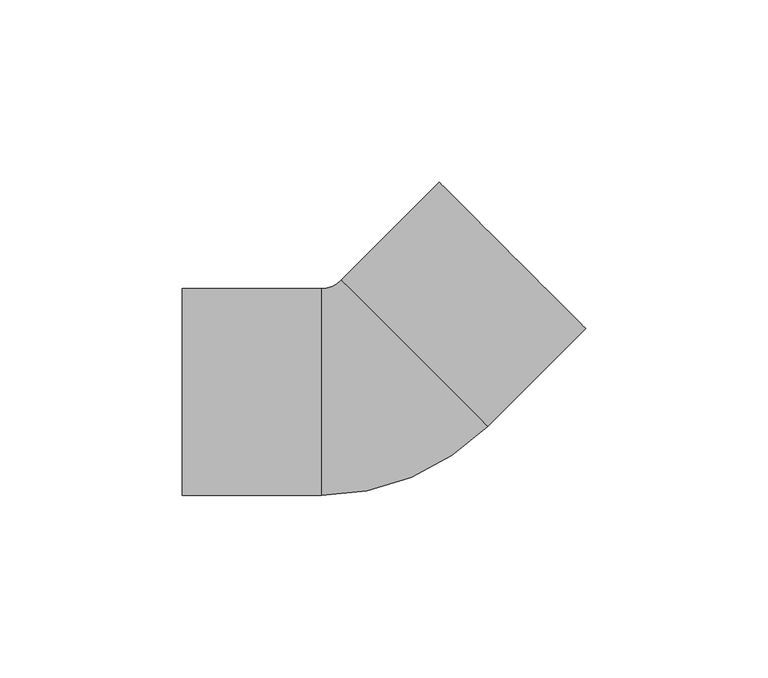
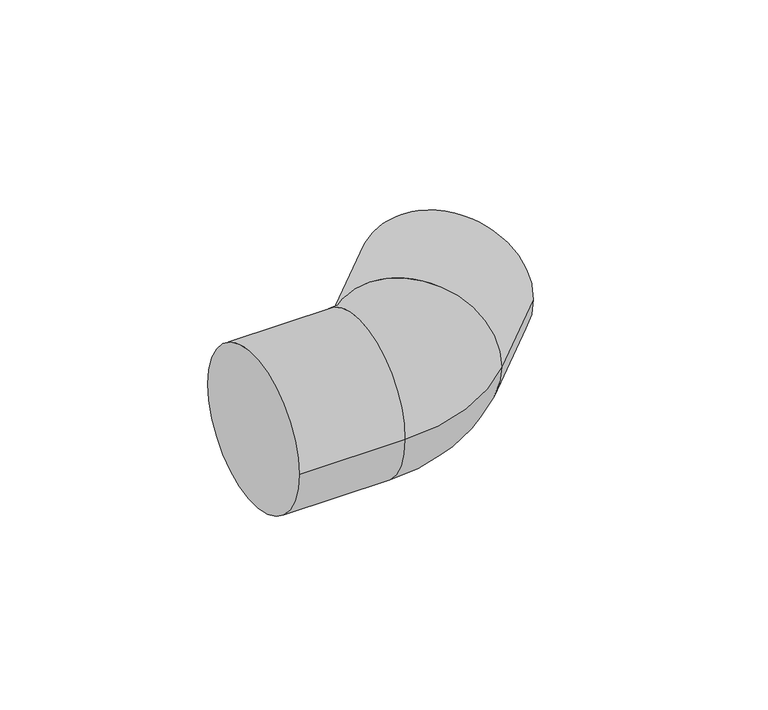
"""IFC4 building model written with IfcOpenShell, lengths in millimetres: pipe fitting geometry, 01051067 : Codos 45º."""

from ifc_helpers import new_model, si_unit, point, frame, origin, place, context, project, spatial, circle_curve, ellipse_curve, trimmed, source, transform, mapped, element, save
from ifc_brep_helpers import plane_surface, cylinder_surface, revolved_surface, advanced_brep


def pipe_fitting_55a609fb(model_context):
    return source(origin(), model_context, "Body", "AdvancedBrep", [
        advanced_brep(
        [(-53.0, -28.35, 0.0), (-53.0, 28.35, 0.0), (-15.0, -28.35, 0.0), (-15.0, 28.35, 0.0), (-9.4398755, 30.653079, 0.0), (30.653079, -9.4398755, 0.0), (57.5231366, 17.4301822, 0.0), (17.4301822, 57.5231366, 0.0)],
        [
            (0, 1, circle_curve(frame((-53.0, 0.0, 0.0), z_axis=(-1.0, 0.0, 0.0), x_axis=(0.0, 1.0, 0.0)), 28.35)),
            (1, 0, circle_curve(frame((-53.0, 0.0, 0.0), z_axis=(-1.0, 0.0, 0.0), x_axis=(0.0, 1.0, 0.0)), 28.35)),
            (0, 2),
            (2, 3, circle_curve(frame((-15.0, 0.0, 0.0), z_axis=(-1.0, 0.0, 0.0), x_axis=(0.0, 1.0, 0.0)), 28.35)),
            (3, 1),
            (3, 2, circle_curve(frame((-15.0, 0.0, 0.0), z_axis=(-1.0, 0.0, 0.0), x_axis=(0.0, 1.0, 0.0)), 28.35)),
            (4, 3, circle_curve(frame((-15.0, 36.2132034, 0.0), z_axis=(0.0, 0.0, -1.0), x_axis=(0.0, -1.0, 0.0)), 7.8632034)),
            (2, 5, circle_curve(frame((-15.0, 36.2132034, 0.0), z_axis=(0.0, 0.0, 1.0), x_axis=(0.0, -1.0, 0.0)), 64.5632034)),
            (5, 4, circle_curve(frame((10.6066017, 10.6066017, 0.0), z_axis=(-0.7071067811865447, -0.7071067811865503, 0.0), x_axis=(-0.7071067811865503, 0.7071067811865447, 0.0)), 28.35)),
            (4, 5, circle_curve(frame((10.6066017, 10.6066017, 0.0), z_axis=(-0.7071067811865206, -0.7071067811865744, 0.0), x_axis=(-0.7071067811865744, 0.7071067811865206, 0.0)), 28.35)),
            (6, 7, circle_curve(frame((37.4766594, 37.4766594, 0.0), z_axis=(0.7071067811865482, 0.7071067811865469, 0.0), x_axis=(-0.7071067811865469, 0.7071067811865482, 0.0)), 28.35)),
            (7, 6, circle_curve(frame((37.4766594, 37.4766594, 0.0), z_axis=(0.7071067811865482, 0.7071067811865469, 0.0), x_axis=(-0.7071067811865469, 0.7071067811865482, 0.0)), 28.35)),
            (5, 6),
            (7, 4),
        ],
        [
            plane_surface(frame((-53.0, 0.0, 0.0), z_axis=(-1.0, 0.0, 0.0), x_axis=(0.0, 0.0, 1.0))),
            cylinder_surface(frame((-53.0, 0.0, 0.0), z_axis=(-1.0, 0.0, 0.0), x_axis=(0.0, 1.0, 0.0)), 28.35),
            revolved_surface(trimmed(ellipse_curve(frame((-15.0, 0.0, 0.0), z_axis=(-1.0, 0.0, 0.0), x_axis=(0.0, 1.0, 0.0)), 28.35, 28.35), [point((-15.0, -28.35, 0.0))], [point((-15.0, 28.35, 0.0))], True, "CARTESIAN"), (-15.0, 36.2132034, 0.0), (0.0, 0.0, 1.0)),
            revolved_surface(trimmed(ellipse_curve(frame((-15.0, 0.0, 0.0), z_axis=(-1.0, 0.0, 0.0), x_axis=(0.0, 1.0, 0.0)), 28.35, 28.35), [point((-15.0, 28.35, 0.0))], [point((-15.0, -28.35, 0.0))], True, "CARTESIAN"), (-15.0, 36.2132034, 0.0), (0.0, 0.0, 1.0)),
            plane_surface(frame((37.4766594, 37.4766594, 0.0), z_axis=(0.7071067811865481, 0.7071067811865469, 0.0), x_axis=(0.0, 0.0, 1.0))),
            cylinder_surface(frame((10.6066017, 10.6066017, 0.0), z_axis=(-0.7071067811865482, -0.7071067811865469, 0.0), x_axis=(-0.7071067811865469, 0.7071067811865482, 0.0)), 28.35),
        ],
        [
            (0, [[1, 2]]),
            (1, [[-1, 3, 4, 5]]),
            (1, [[-2, -5, 6, -3]]),
            (2, [[7, -4, 8, 9]]),
            (3, [[-8, -6, -7, 10]]),
            (4, [[11, 12]]),
            (5, [[-9, 13, -12, 14]]),
            (5, [[-10, -14, -11, -13]]),
        ],
    ),
    ])


if __name__ == "__main__":
    model = new_model("IFC4")
    model_context = context("Model", 3, world=origin())
    ifc_project = project(units=[si_unit("LENGTHUNIT", "METRE", prefix="MILLI")], contexts=[model_context])
    site = spatial("IfcSite", under=ifc_project)
    building = spatial("IfcBuilding", under=site)
    placement = place(None, origin())
    pipe_fitting_shape = pipe_fitting_55a609fb(model_context)
    element("IfcPipeFitting", 1, ObjectType="01051067 : Codos 45º", at=placement, inside=building, context=model_context, shape_type="MappedRepresentation", body=[
        mapped(pipe_fitting_shape, transform((0.0, 0.0, 0.0), x_axis=(1.0, 0.0, 0.0), y_axis=(0.0, 1.0, 0.0), z_axis=(0.0, 0.0, 1.0))),
    ])
    save(model, "model.ifc")
